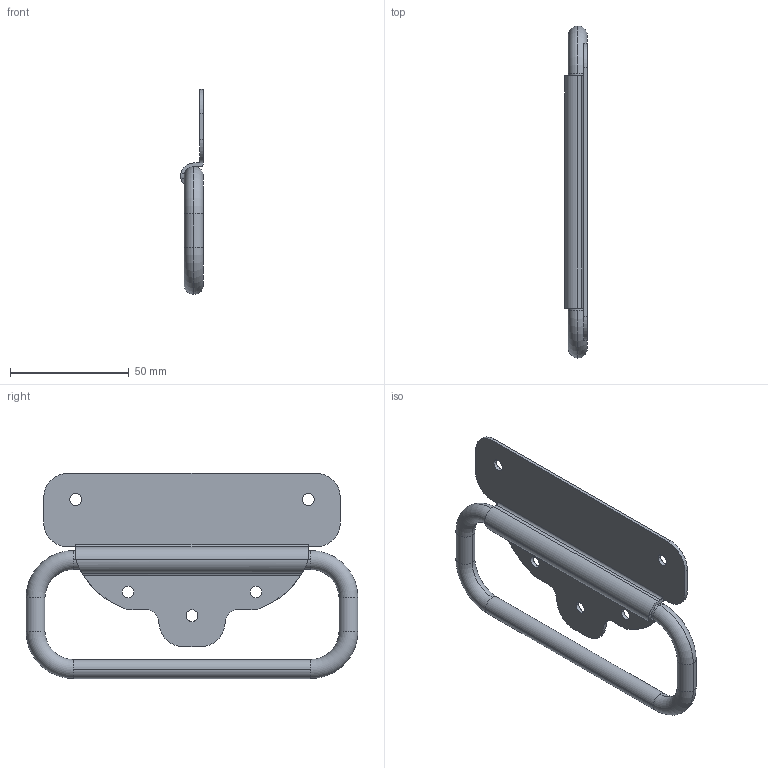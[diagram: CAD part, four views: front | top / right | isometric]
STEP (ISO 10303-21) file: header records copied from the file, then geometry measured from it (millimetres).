
FILE_DESCRIPTION((''),'2;1');
FILE_NAME('6457.04.00.stp','2023-10-09T15:17:11',(''),(''),'Mechanical Desktop 2006','Mechanical Desktop 2006',', , ');
FILE_SCHEMA(('CONFIG_CONTROL_DESIGN'));
Length unit declared in the file: millimetre
Products named in the file (1): 6457.04.00_
Bounding box: 9.5 x 140 x 86.5 mm (x, y, z)
Volume: 27279 mm3; surface area: 23635.5 mm2
Topology: 2 solids, 2 shells, 72 faces, 196 edges, 128 vertices
Faces by surface type: cylinder 42, plane 22, torus 8
Entity records: 2563 total; most frequent: CARTESIAN_POINT 575, DIRECTION 414, ORIENTED_EDGE 392, EDGE_CURVE 196, AXIS2_PLACEMENT_3D 161, VERTEX_POINT 128, VECTOR 92, LINE 92
